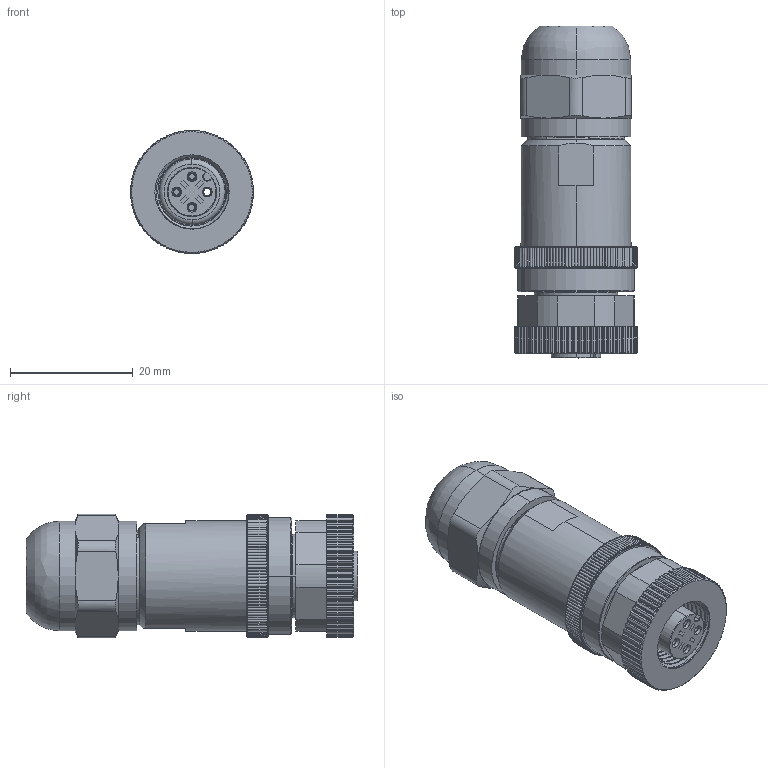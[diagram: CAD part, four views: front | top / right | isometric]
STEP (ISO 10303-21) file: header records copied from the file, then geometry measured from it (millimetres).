
FILE_DESCRIPTION((''),'2;1');
FILE_NAME('XC-M12P-WK-PG9','2025-06-23T14:37:19',('lyj'),(''),'CREO PARAMETRIC BY PTC INC, 2019010','CREO PARAMETRIC BY PTC INC, 2019010','');
FILE_SCHEMA(('CONFIG_CONTROL_DESIGN'));
Length unit declared in the file: millimetre
Products named in the file (1): XC-M12P-WK-PG9
Bounding box: 20 x 54 x 20.16 mm (x, y, z)
Volume: 8235.8 mm3; surface area: 12364.5 mm2
Topology: 1 solids, 13 shells, 1649 faces, 4325 edges, 2752 vertices
Faces by surface type: cylinder 760, plane 413, cone 374, bspline 43, torus 30, extrusion 29
Entity records: 81038 total; most frequent: CARTESIAN_POINT 41862, ORIENTED_EDGE 8650, DIRECTION 7650, EDGE_CURVE 4325, AXIS2_PLACEMENT_3D 3031, VERTEX_POINT 2752, EDGE_LOOP 1731, FACE_OUTER_BOUND 1649
